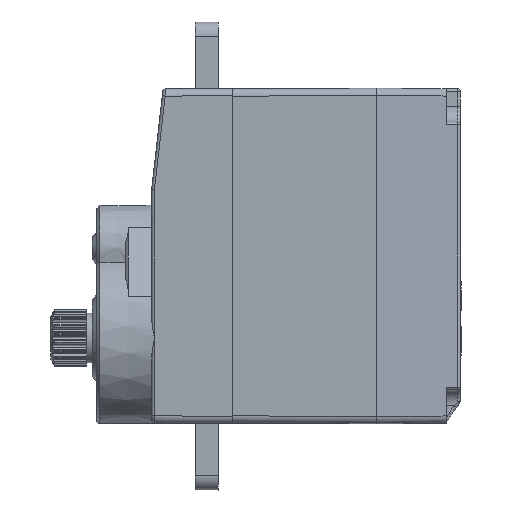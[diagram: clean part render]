
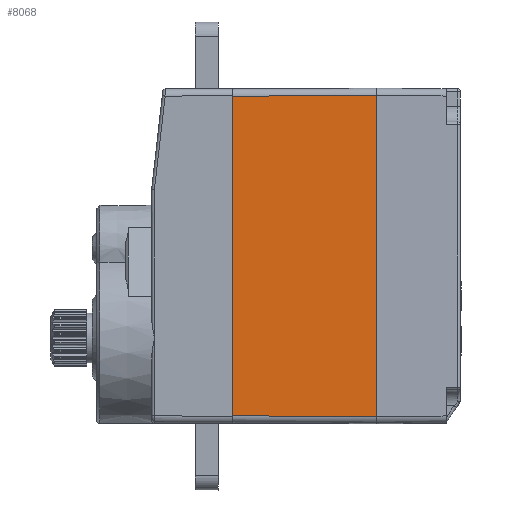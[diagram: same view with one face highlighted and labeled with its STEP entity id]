
A CAD part, left-side view. The second image highlights one B-rep face of the part: STEP entity #8068.
In plain terms, the highlighted planar face has unit normal (-1, 0.004, 0) as drawn and (1, 0.004, 0) by its records, which use the part's own axes.
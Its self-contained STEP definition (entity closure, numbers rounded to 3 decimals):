
#5039=CARTESIAN_POINT('',(6.,15.2,-11.1));
#5328=CARTESIAN_POINT('',(6.044,5.2,11.144));
#5330=CARTESIAN_POINT('',(6.044,5.2,-11.144));
#5752=DIRECTION('',(0.004,-1.,-0.004));
#5753=VECTOR('',#5752,10.);
#5754=CARTESIAN_POINT('',(6.,15.2,-11.1));
#5755=LINE('',#5754,#5753);
#5756=DIRECTION('',(0.,0.,1.));
#5757=VECTOR('',#5756,22.287);
#5758=CARTESIAN_POINT('',(6.044,5.2,-11.144));
#5759=LINE('',#5758,#5757);
#5760=DIRECTION('',(-0.004,1.,-0.004));
#5761=VECTOR('',#5760,10.);
#5762=CARTESIAN_POINT('',(6.044,5.2,11.144));
#5763=LINE('',#5762,#5761);
#5764=DIRECTION('',(0.,0.,-1.));
#5765=VECTOR('',#5764,22.2);
#5766=CARTESIAN_POINT('',(6.,15.2,11.1));
#5767=LINE('',#5766,#5765);
#6763=VERTEX_POINT('',#5039);
#6764=CARTESIAN_POINT('',(6.,15.2,11.1));
#6765=VERTEX_POINT('',#6764);
#6857=VERTEX_POINT('',#5330);
#6940=VERTEX_POINT('',#5328);
#8057=CARTESIAN_POINT('',(6.022,10.2,0.));
#8058=DIRECTION('',(1.,0.004,0.));
#8059=DIRECTION('',(0.,0.,1.));
#8060=AXIS2_PLACEMENT_3D('',#8057,#8058,#8059);
#8061=PLANE('',#8060);
#8062=ORIENTED_EDGE('',*,*,#7413,.T.);
#8063=ORIENTED_EDGE('',*,*,#7514,.T.);
#8064=ORIENTED_EDGE('',*,*,#8052,.T.);
#8065=ORIENTED_EDGE('',*,*,#7291,.T.);
#8066=EDGE_LOOP('',(#8062,#8063,#8064,#8065));
#8067=FACE_OUTER_BOUND('',#8066,.F.);
#7291=EDGE_CURVE('',#6765,#6763,#5767,.T.);
#7413=EDGE_CURVE('',#6763,#6857,#5755,.T.);
#7514=EDGE_CURVE('',#6857,#6940,#5759,.T.);
#8052=EDGE_CURVE('',#6940,#6765,#5763,.T.);
#8068=ADVANCED_FACE('',(#8067),#8061,.T.);
